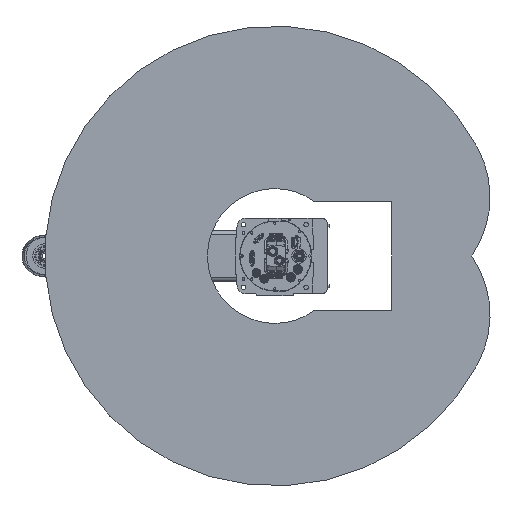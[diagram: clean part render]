
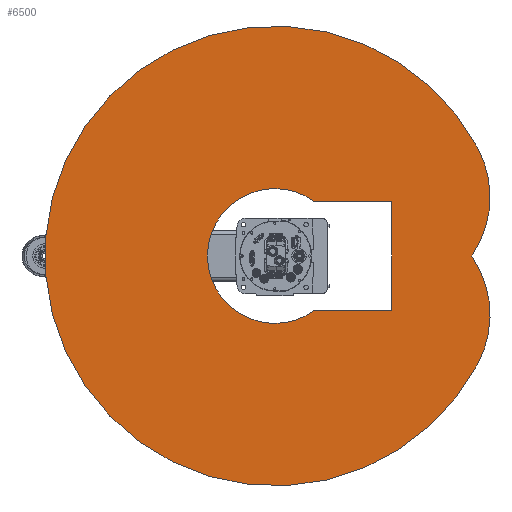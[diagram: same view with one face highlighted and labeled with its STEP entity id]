
A CAD part, front view. The second image highlights one B-rep face of the part: STEP entity #6500.
In plain terms, the highlighted planar face has unit normal (0, -1, 0).
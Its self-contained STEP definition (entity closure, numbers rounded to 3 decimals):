
#6500 = ADVANCED_FACE( '', ( #15253, #15254 ), #15255, .F. );
#15253 = FACE_OUTER_BOUND( '', #26978, .T. );
#15254 = FACE_BOUND( '', #26979, .T. );
#15255 = PLANE( '', #26980 );
#26978 = EDGE_LOOP( '', ( #45749, #45750, #45751 ) );
#26979 = EDGE_LOOP( '', ( #45752, #45753, #45754, #45755 ) );
#26980 = AXIS2_PLACEMENT_3D( '', #45756, #45757, #45758 );
#45749 = ORIENTED_EDGE( '', *, *, #67099, .F. );
#45750 = ORIENTED_EDGE( '', *, *, #62237, .F. );
#45751 = ORIENTED_EDGE( '', *, *, #64848, .F. );
#45752 = ORIENTED_EDGE( '', *, *, #67100, .T. );
#45753 = ORIENTED_EDGE( '', *, *, #67101, .T. );
#45754 = ORIENTED_EDGE( '', *, *, #67102, .T. );
#45755 = ORIENTED_EDGE( '', *, *, #67103, .T. );
#45756 = CARTESIAN_POINT( '', ( 70.421, 0., 132.442 ) );
#45757 = DIRECTION( '', ( 0., 1., 0. ) );
#45758 = DIRECTION( '', ( 0., 0., 1. ) );
#62237 = EDGE_CURVE( '', #73596, #73597, #73598, .T. );
#64848 = EDGE_CURVE( '', #77908, #73596, #77909, .T. );
#67099 = EDGE_CURVE( '', #73597, #77908, #81308, .T. );
#67100 = EDGE_CURVE( '', #81309, #81310, #81311, .T. );
#67101 = EDGE_CURVE( '', #81310, #81312, #81313, .T. );
#67102 = EDGE_CURVE( '', #81312, #81314, #81315, .T. );
#67103 = EDGE_CURVE( '', #81314, #81309, #81316, .T. );
#73596 = VERTEX_POINT( '', #90510 );
#73597 = VERTEX_POINT( '', #90511 );
#73598 = CIRCLE( '', #90512, 250. );
#77908 = VERTEX_POINT( '', #97964 );
#77909 = CIRCLE( '', #97965, 550. );
#81308 = CIRCLE( '', #103837, 250. );
#81309 = VERTEX_POINT( '', #103838 );
#81310 = VERTEX_POINT( '', #103839 );
#81311 = LINE( '', #103840, #103841 );
#81312 = VERTEX_POINT( '', #103842 );
#81313 = LINE( '', #103843, #103844 );
#81314 = VERTEX_POINT( '', #103845 );
#81315 = LINE( '', #103846, #103847 );
#81316 = CIRCLE( '', #103848, 161.22 );
#90510 = CARTESIAN_POINT( '', ( -258.209, 0., 485.621 ) );
#90511 = CARTESIAN_POINT( '', ( 0., 0., 471.436 ) );
#90512 = AXIS2_PLACEMENT_3D( '', #114077, #114078, #114079 );
#97964 = CARTESIAN_POINT( '', ( 258.209, 0., 485.621 ) );
#97965 = AXIS2_PLACEMENT_3D( '', #117363, #117364, #117365 );
#103837 = AXIS2_PLACEMENT_3D( '', #120042, #120043, #120044 );
#103838 = CARTESIAN_POINT( '', ( -130., 0., 95.351 ) );
#103839 = CARTESIAN_POINT( '', ( -130., 0., 280. ) );
#103840 = CARTESIAN_POINT( '', ( -130., 0., 0. ) );
#103841 = VECTOR( '', #120045, 1000. );
#103842 = CARTESIAN_POINT( '', ( 130., 0., 280. ) );
#103843 = CARTESIAN_POINT( '', ( -130., 0., 280. ) );
#103844 = VECTOR( '', #120046, 1000. );
#103845 = CARTESIAN_POINT( '', ( 130., 0., 95.351 ) );
#103846 = CARTESIAN_POINT( '', ( 130., 0., 280. ) );
#103847 = VECTOR( '', #120047, 1000. );
#103848 = AXIS2_PLACEMENT_3D( '', #120048, #120049, #120050 );
#114077 = CARTESIAN_POINT( '', ( -140.841, 0., 264.884 ) );
#114078 = DIRECTION( '', ( 0., 1., 0. ) );
#114079 = DIRECTION( '', ( 1., 0., 0. ) );
#117363 = CARTESIAN_POINT( '', ( 0., 0., 0. ) );
#117364 = DIRECTION( '', ( 0., 1., 0. ) );
#117365 = DIRECTION( '', ( 1., 0., 0. ) );
#120042 = CARTESIAN_POINT( '', ( 140.841, 0., 264.884 ) );
#120043 = DIRECTION( '', ( 0., 1., 0. ) );
#120044 = DIRECTION( '', ( 1., 0., 0. ) );
#120045 = DIRECTION( '', ( 0., 0., 1. ) );
#120046 = DIRECTION( '', ( 1., 0., 0. ) );
#120047 = DIRECTION( '', ( 0., 0., -1. ) );
#120048 = CARTESIAN_POINT( '', ( 0., 0., 0. ) );
#120049 = DIRECTION( '', ( 0., 1., 0. ) );
#120050 = DIRECTION( '', ( 1., 0., 0. ) );
